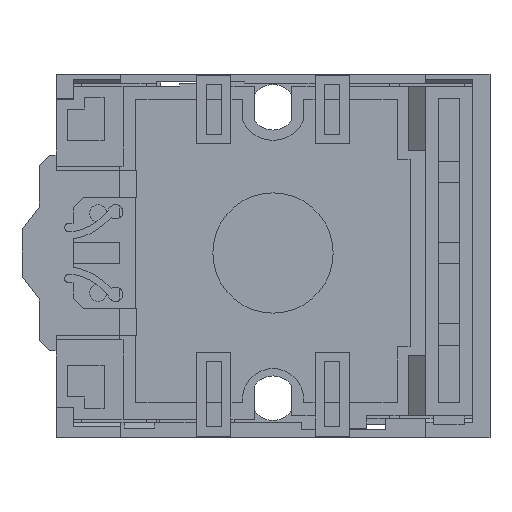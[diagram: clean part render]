
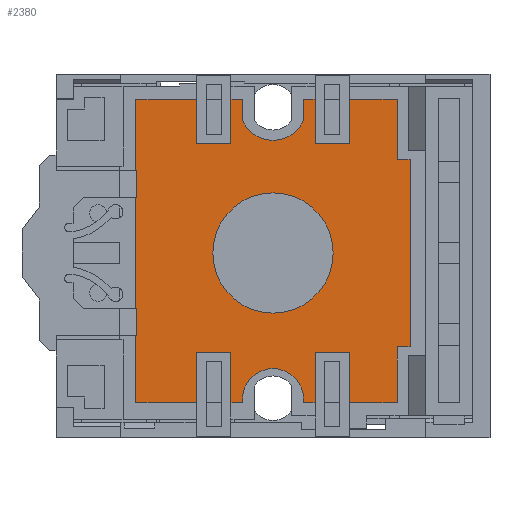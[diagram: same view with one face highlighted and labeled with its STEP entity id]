
A CAD part, front view. The second image highlights one B-rep face of the part: STEP entity #2380.
In plain terms, the highlighted planar face has unit normal (0, -1, 0).
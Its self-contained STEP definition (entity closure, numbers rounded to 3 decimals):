
#969=FACE_BOUND('',#6909,.T.);
#970=FACE_BOUND('',#6910,.T.);
#1334=CIRCLE('',#32370,7.07);
#1335=CIRCLE('',#32371,3.59);
#1336=CIRCLE('',#32372,3.89);
#2380=ADVANCED_FACE('',(#969,#970),#4091,.F.);
#4091=PLANE('',#32373);
#6909=EDGE_LOOP('',(#15842));
#6910=EDGE_LOOP('',(#15843,#15844,#15845,#15846,#15847,#15848,#15849,#15850,
#15851,#15852,#15853,#15854,#15855,#15856,#15857,#15858,#15859,#15860,#15861,
#15862,#15863,#15864,#15865,#15866,#15867,#15868,#15869,#15870,#15871,#15872,
#15873,#15874));
#8932=LINE('',#46331,#12206);
#8933=LINE('',#46334,#12207);
#8934=LINE('',#46336,#12208);
#8935=LINE('',#46338,#12209);
#8936=LINE('',#46340,#12210);
#8937=LINE('',#46344,#12211);
#8938=LINE('',#46346,#12212);
#8939=LINE('',#46348,#12213);
#8940=LINE('',#46350,#12214);
#8941=LINE('',#46352,#12215);
#8942=LINE('',#46354,#12216);
#8943=LINE('',#46356,#12217);
#8944=LINE('',#46358,#12218);
#8945=LINE('',#46360,#12219);
#8946=LINE('',#46362,#12220);
#8947=LINE('',#46364,#12221);
#8948=LINE('',#46366,#12222);
#8949=LINE('',#46368,#12223);
#8950=LINE('',#46370,#12224);
#8951=LINE('',#46372,#12225);
#8952=LINE('',#46374,#12226);
#8953=LINE('',#46376,#12227);
#8954=LINE('',#46380,#12228);
#8955=LINE('',#46382,#12229);
#8956=LINE('',#46384,#12230);
#8957=LINE('',#46386,#12231);
#8958=LINE('',#46388,#12232);
#8959=LINE('',#46390,#12233);
#8960=LINE('',#46392,#12234);
#8961=LINE('',#46394,#12235);
#12206=VECTOR('',#35334,1.);
#12207=VECTOR('',#35335,1.);
#12208=VECTOR('',#35336,1.);
#12209=VECTOR('',#35337,1.);
#12210=VECTOR('',#35338,1.);
#12211=VECTOR('',#35341,1.);
#12212=VECTOR('',#35342,1.);
#12213=VECTOR('',#35343,1.);
#12214=VECTOR('',#35344,1.);
#12215=VECTOR('',#35345,1.);
#12216=VECTOR('',#35346,1.);
#12217=VECTOR('',#35347,1.);
#12218=VECTOR('',#35348,1.);
#12219=VECTOR('',#35349,1.);
#12220=VECTOR('',#35350,1.);
#12221=VECTOR('',#35351,1.);
#12222=VECTOR('',#35352,1.);
#12223=VECTOR('',#35353,1.);
#12224=VECTOR('',#35354,1.);
#12225=VECTOR('',#35355,1.);
#12226=VECTOR('',#35356,1.);
#12227=VECTOR('',#35357,1.);
#12228=VECTOR('',#35360,1.);
#12229=VECTOR('',#35361,1.);
#12230=VECTOR('',#35362,1.);
#12231=VECTOR('',#35363,1.);
#12232=VECTOR('',#35364,1.);
#12233=VECTOR('',#35365,1.);
#12234=VECTOR('',#35366,1.);
#12235=VECTOR('',#35367,1.);
#15842=ORIENTED_EDGE('',*,*,#27777,.T.);
#15843=ORIENTED_EDGE('',*,*,#27778,.F.);
#15844=ORIENTED_EDGE('',*,*,#27779,.F.);
#15845=ORIENTED_EDGE('',*,*,#27780,.F.);
#15846=ORIENTED_EDGE('',*,*,#27781,.T.);
#15847=ORIENTED_EDGE('',*,*,#27782,.T.);
#15848=ORIENTED_EDGE('',*,*,#27783,.T.);
#15849=ORIENTED_EDGE('',*,*,#27784,.T.);
#15850=ORIENTED_EDGE('',*,*,#27785,.T.);
#15851=ORIENTED_EDGE('',*,*,#27786,.T.);
#15852=ORIENTED_EDGE('',*,*,#27787,.T.);
#15853=ORIENTED_EDGE('',*,*,#27788,.T.);
#15854=ORIENTED_EDGE('',*,*,#27789,.T.);
#15855=ORIENTED_EDGE('',*,*,#27790,.T.);
#15856=ORIENTED_EDGE('',*,*,#27791,.T.);
#15857=ORIENTED_EDGE('',*,*,#27792,.T.);
#15858=ORIENTED_EDGE('',*,*,#27793,.T.);
#15859=ORIENTED_EDGE('',*,*,#27794,.T.);
#15860=ORIENTED_EDGE('',*,*,#27795,.T.);
#15861=ORIENTED_EDGE('',*,*,#27796,.F.);
#15862=ORIENTED_EDGE('',*,*,#27797,.F.);
#15863=ORIENTED_EDGE('',*,*,#27798,.F.);
#15864=ORIENTED_EDGE('',*,*,#27799,.T.);
#15865=ORIENTED_EDGE('',*,*,#27800,.T.);
#15866=ORIENTED_EDGE('',*,*,#27801,.T.);
#15867=ORIENTED_EDGE('',*,*,#27802,.T.);
#15868=ORIENTED_EDGE('',*,*,#27803,.T.);
#15869=ORIENTED_EDGE('',*,*,#27804,.T.);
#15870=ORIENTED_EDGE('',*,*,#27805,.T.);
#15871=ORIENTED_EDGE('',*,*,#27806,.T.);
#15872=ORIENTED_EDGE('',*,*,#27807,.T.);
#15873=ORIENTED_EDGE('',*,*,#27808,.T.);
#15874=ORIENTED_EDGE('',*,*,#27809,.T.);
#24703=VERTEX_POINT('',#46330);
#24704=VERTEX_POINT('',#46332);
#24705=VERTEX_POINT('',#46333);
#24706=VERTEX_POINT('',#46335);
#24707=VERTEX_POINT('',#46337);
#24708=VERTEX_POINT('',#46339);
#24709=VERTEX_POINT('',#46341);
#24710=VERTEX_POINT('',#46343);
#24711=VERTEX_POINT('',#46345);
#24712=VERTEX_POINT('',#46347);
#24713=VERTEX_POINT('',#46349);
#24714=VERTEX_POINT('',#46351);
#24715=VERTEX_POINT('',#46353);
#24716=VERTEX_POINT('',#46355);
#24717=VERTEX_POINT('',#46357);
#24718=VERTEX_POINT('',#46359);
#24719=VERTEX_POINT('',#46361);
#24720=VERTEX_POINT('',#46363);
#24721=VERTEX_POINT('',#46365);
#24722=VERTEX_POINT('',#46367);
#24723=VERTEX_POINT('',#46369);
#24724=VERTEX_POINT('',#46371);
#24725=VERTEX_POINT('',#46373);
#24726=VERTEX_POINT('',#46375);
#24727=VERTEX_POINT('',#46377);
#24728=VERTEX_POINT('',#46379);
#24729=VERTEX_POINT('',#46381);
#24730=VERTEX_POINT('',#46383);
#24731=VERTEX_POINT('',#46385);
#24732=VERTEX_POINT('',#46387);
#24733=VERTEX_POINT('',#46389);
#24734=VERTEX_POINT('',#46391);
#24735=VERTEX_POINT('',#46393);
#27777=EDGE_CURVE('',#24703,#24703,#1334,.T.);
#27778=EDGE_CURVE('',#24704,#24705,#8932,.T.);
#27779=EDGE_CURVE('',#24706,#24704,#8933,.T.);
#27780=EDGE_CURVE('',#24707,#24706,#8934,.T.);
#27781=EDGE_CURVE('',#24707,#24708,#8935,.T.);
#27782=EDGE_CURVE('',#24708,#24709,#8936,.T.);
#27783=EDGE_CURVE('',#24709,#24710,#1335,.T.);
#27784=EDGE_CURVE('',#24710,#24711,#8937,.T.);
#27785=EDGE_CURVE('',#24711,#24712,#8938,.T.);
#27786=EDGE_CURVE('',#24712,#24713,#8939,.T.);
#27787=EDGE_CURVE('',#24713,#24714,#8940,.T.);
#27788=EDGE_CURVE('',#24714,#24715,#8941,.T.);
#27789=EDGE_CURVE('',#24715,#24716,#8942,.T.);
#27790=EDGE_CURVE('',#24716,#24717,#8943,.T.);
#27791=EDGE_CURVE('',#24717,#24718,#8944,.T.);
#27792=EDGE_CURVE('',#24718,#24719,#8945,.T.);
#27793=EDGE_CURVE('',#24719,#24720,#8946,.T.);
#27794=EDGE_CURVE('',#24720,#24721,#8947,.T.);
#27795=EDGE_CURVE('',#24721,#24722,#8948,.T.);
#27796=EDGE_CURVE('',#24723,#24722,#8949,.T.);
#27797=EDGE_CURVE('',#24724,#24723,#8950,.T.);
#27798=EDGE_CURVE('',#24725,#24724,#8951,.T.);
#27799=EDGE_CURVE('',#24725,#24726,#8952,.T.);
#27800=EDGE_CURVE('',#24726,#24727,#8953,.T.);
#27801=EDGE_CURVE('',#24727,#24728,#1336,.T.);
#27802=EDGE_CURVE('',#24728,#24729,#8954,.T.);
#27803=EDGE_CURVE('',#24729,#24730,#8955,.T.);
#27804=EDGE_CURVE('',#24730,#24731,#8956,.T.);
#27805=EDGE_CURVE('',#24731,#24732,#8957,.T.);
#27806=EDGE_CURVE('',#24732,#24733,#8958,.T.);
#27807=EDGE_CURVE('',#24733,#24734,#8959,.T.);
#27808=EDGE_CURVE('',#24734,#24735,#8960,.T.);
#27809=EDGE_CURVE('',#24735,#24705,#8961,.T.);
#32370=AXIS2_PLACEMENT_3D('',#46329,#35332,#35333);
#32371=AXIS2_PLACEMENT_3D('',#46342,#35339,#35340);
#32372=AXIS2_PLACEMENT_3D('',#46378,#35358,#35359);
#32373=AXIS2_PLACEMENT_3D('',#46395,#35368,#35369);
#35332=DIRECTION('',(0.,1.,0.));
#35333=DIRECTION('',(-1.,0.,0.));
#35334=DIRECTION('',(0.,0.,-1.));
#35335=DIRECTION('',(-1.,0.,0.));
#35336=DIRECTION('',(0.,0.,1.));
#35337=DIRECTION('',(1.,0.,0.));
#35338=DIRECTION('',(0.,0.,1.));
#35339=DIRECTION('',(0.,1.,0.));
#35340=DIRECTION('',(-1.,0.,0.));
#35341=DIRECTION('',(0.,0.,-1.));
#35342=DIRECTION('',(1.,0.,0.));
#35343=DIRECTION('',(0.,0.,1.));
#35344=DIRECTION('',(1.,0.,0.));
#35345=DIRECTION('',(0.,0.,-1.));
#35346=DIRECTION('',(1.,0.,0.));
#35347=DIRECTION('',(0.,0.,1.));
#35348=DIRECTION('',(1.,0.,0.));
#35349=DIRECTION('',(0.,0.,1.));
#35350=DIRECTION('',(-1.,0.,0.));
#35351=DIRECTION('',(0.,0.,1.));
#35352=DIRECTION('',(-1.,0.,0.));
#35353=DIRECTION('',(0.,0.,1.));
#35354=DIRECTION('',(1.,0.,0.));
#35355=DIRECTION('',(0.,0.,-1.));
#35356=DIRECTION('',(-1.,0.,0.));
#35357=DIRECTION('',(0.,0.,-1.));
#35358=DIRECTION('',(0.,1.,0.));
#35359=DIRECTION('',(-1.,0.,0.));
#35360=DIRECTION('',(0.,0.,1.));
#35361=DIRECTION('',(-1.,0.,0.));
#35362=DIRECTION('',(0.,0.,-1.));
#35363=DIRECTION('',(-1.,0.,0.));
#35364=DIRECTION('',(0.,0.,1.));
#35365=DIRECTION('',(-1.,0.,0.));
#35366=DIRECTION('',(0.,0.,-1.));
#35367=DIRECTION('',(1.,0.,0.));
#35368=DIRECTION('',(0.,1.,0.));
#35369=DIRECTION('',(-1.,0.,0.));
#46329=CARTESIAN_POINT('',(0.,5.61,0.));
#46330=CARTESIAN_POINT('',(-7.07,5.61,0.));
#46331=CARTESIAN_POINT('',(-8.98,5.61,-11.66));
#46332=CARTESIAN_POINT('',(-8.98,5.61,-11.66));
#46333=CARTESIAN_POINT('',(-8.98,5.61,-17.59));
#46334=CARTESIAN_POINT('',(-4.94,5.61,-11.66));
#46335=CARTESIAN_POINT('',(-4.94,5.61,-11.66));
#46336=CARTESIAN_POINT('',(-4.94,5.61,-21.53));
#46337=CARTESIAN_POINT('',(-4.94,5.61,-17.59));
#46338=CARTESIAN_POINT('',(-16.12,5.61,-17.59));
#46339=CARTESIAN_POINT('',(-3.58,5.61,-17.59));
#46340=CARTESIAN_POINT('',(-3.58,5.61,-17.59));
#46341=CARTESIAN_POINT('',(-3.58,5.61,-16.912));
#46342=CARTESIAN_POINT('',(0.,5.61,-17.18));
#46343=CARTESIAN_POINT('',(3.58,5.61,-16.912));
#46344=CARTESIAN_POINT('',(3.58,5.61,-16.912));
#46345=CARTESIAN_POINT('',(3.58,5.61,-17.59));
#46346=CARTESIAN_POINT('',(3.58,5.61,-17.59));
#46347=CARTESIAN_POINT('',(4.94,5.61,-17.59));
#46348=CARTESIAN_POINT('',(4.94,5.61,-21.53));
#46349=CARTESIAN_POINT('',(4.94,5.61,-11.66));
#46350=CARTESIAN_POINT('',(4.94,5.61,-11.66));
#46351=CARTESIAN_POINT('',(8.98,5.61,-11.66));
#46352=CARTESIAN_POINT('',(8.98,5.61,-11.66));
#46353=CARTESIAN_POINT('',(8.98,5.61,-17.59));
#46354=CARTESIAN_POINT('',(3.58,5.61,-17.59));
#46355=CARTESIAN_POINT('',(14.6,5.61,-17.59));
#46356=CARTESIAN_POINT('',(14.6,5.61,-17.59));
#46357=CARTESIAN_POINT('',(14.6,5.61,-11.02));
#46358=CARTESIAN_POINT('',(14.6,5.61,-11.02));
#46359=CARTESIAN_POINT('',(16.11,5.61,-11.02));
#46360=CARTESIAN_POINT('',(16.11,5.61,-11.02));
#46361=CARTESIAN_POINT('',(16.11,5.61,11.02));
#46362=CARTESIAN_POINT('',(16.11,5.61,11.02));
#46363=CARTESIAN_POINT('',(14.6,5.61,11.02));
#46364=CARTESIAN_POINT('',(14.6,5.61,11.02));
#46365=CARTESIAN_POINT('',(14.6,5.61,18.09));
#46366=CARTESIAN_POINT('',(14.6,5.61,18.09));
#46367=CARTESIAN_POINT('',(8.98,5.61,18.09));
#46368=CARTESIAN_POINT('',(8.98,5.61,12.83));
#46369=CARTESIAN_POINT('',(8.98,5.61,12.83));
#46370=CARTESIAN_POINT('',(4.94,5.61,12.83));
#46371=CARTESIAN_POINT('',(4.94,5.61,12.83));
#46372=CARTESIAN_POINT('',(4.94,5.61,17.13));
#46373=CARTESIAN_POINT('',(4.94,5.61,18.09));
#46374=CARTESIAN_POINT('',(14.6,5.61,18.09));
#46375=CARTESIAN_POINT('',(3.58,5.61,18.09));
#46376=CARTESIAN_POINT('',(3.58,5.61,18.09));
#46377=CARTESIAN_POINT('',(3.58,5.61,15.608));
#46378=CARTESIAN_POINT('',(0.,5.61,17.13));
#46379=CARTESIAN_POINT('',(-3.58,5.61,15.608));
#46380=CARTESIAN_POINT('',(-3.58,5.61,15.608));
#46381=CARTESIAN_POINT('',(-3.58,5.61,18.09));
#46382=CARTESIAN_POINT('',(-3.58,5.61,18.09));
#46383=CARTESIAN_POINT('',(-4.94,5.61,18.09));
#46384=CARTESIAN_POINT('',(-4.94,5.61,20.91));
#46385=CARTESIAN_POINT('',(-4.94,5.61,12.83));
#46386=CARTESIAN_POINT('',(-4.94,5.61,12.83));
#46387=CARTESIAN_POINT('',(-8.98,5.61,12.83));
#46388=CARTESIAN_POINT('',(-8.98,5.61,12.83));
#46389=CARTESIAN_POINT('',(-8.98,5.61,18.09));
#46390=CARTESIAN_POINT('',(-3.58,5.61,18.09));
#46391=CARTESIAN_POINT('',(-16.12,5.61,18.09));
#46392=CARTESIAN_POINT('',(-16.12,5.61,18.09));
#46393=CARTESIAN_POINT('',(-16.12,5.61,-17.59));
#46394=CARTESIAN_POINT('',(-16.12,5.61,-17.59));
#46395=CARTESIAN_POINT('',(0.,5.61,17.13));
